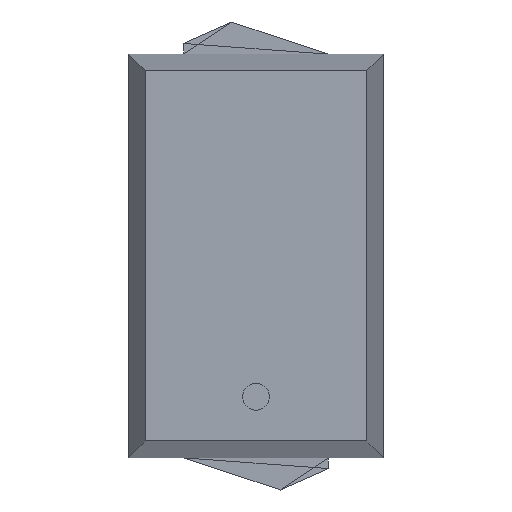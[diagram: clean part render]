
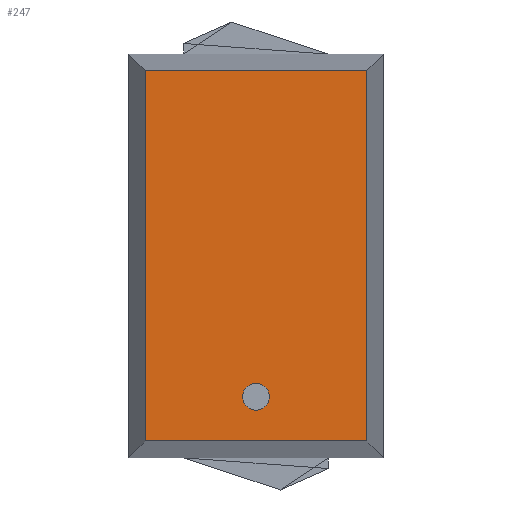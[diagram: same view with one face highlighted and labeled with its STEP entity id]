
A CAD part, top view. The second image highlights one B-rep face of the part: STEP entity #247.
In plain terms, the highlighted planar face has unit normal (0, 0, 1).
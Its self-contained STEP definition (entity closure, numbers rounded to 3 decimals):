
#247=ADVANCED_FACE('',(#253),#248,.T.);
#248=PLANE('',#249);
#249=AXIS2_PLACEMENT_3D('',#250,#251,#252);
#250=CARTESIAN_POINT('',(-1.269,-2.12,1.168));
#251=DIRECTION('',(0.0,0.0,1.0));
#252=DIRECTION('',(0.,1.,0.));
#253=FACE_OUTER_BOUND('',#254,.T.);
#254=EDGE_LOOP('',(#255,#265,#275,#285));
#258=CARTESIAN_POINT('',(1.269,-2.12,1.168));
#257=VERTEX_POINT('',#258);
#260=CARTESIAN_POINT('',(-1.269,-2.12,1.168));
#259=VERTEX_POINT('',#260);
#256=EDGE_CURVE('',#257,#259,#261,.T.);
#261=LINE('',#258,#263);
#263=VECTOR('',#264,2.539);
#264=DIRECTION('',(-1.0,0.0,0.0));
#255=ORIENTED_EDGE('',*,*,#256,.F.);
#268=CARTESIAN_POINT('',(1.269,2.12,1.168));
#267=VERTEX_POINT('',#268);
#266=EDGE_CURVE('',#267,#257,#271,.T.);
#271=LINE('',#268,#273);
#273=VECTOR('',#274,4.241);
#274=DIRECTION('',(0.0,-1.0,0.0));
#265=ORIENTED_EDGE('',*,*,#266,.F.);
#278=CARTESIAN_POINT('',(-1.269,2.12,1.168));
#277=VERTEX_POINT('',#278);
#276=EDGE_CURVE('',#277,#267,#281,.T.);
#281=LINE('',#278,#283);
#283=VECTOR('',#284,2.539);
#284=DIRECTION('',(1.0,0.0,0.0));
#275=ORIENTED_EDGE('',*,*,#276,.F.);
#286=EDGE_CURVE('',#259,#277,#291,.T.);
#291=LINE('',#260,#293);
#293=VECTOR('',#294,4.241);
#294=DIRECTION('',(0.0,1.0,0.0));
#285=ORIENTED_EDGE('',*,*,#286,.F.);
